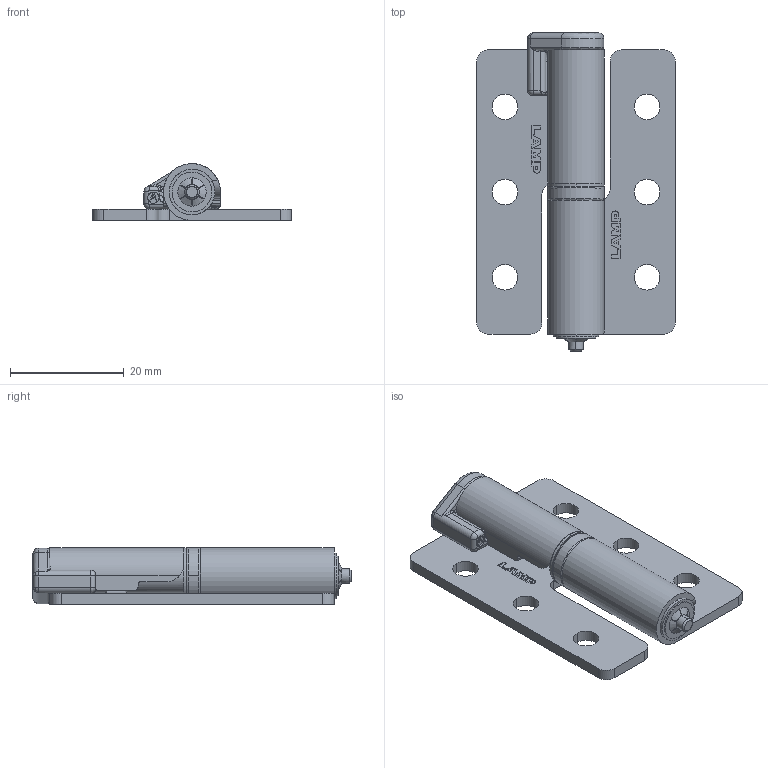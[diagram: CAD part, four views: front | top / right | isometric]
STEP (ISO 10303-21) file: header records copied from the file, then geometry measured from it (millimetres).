
FILE_DESCRIPTION (( 'STEP AP203' ), '1' );
FILE_NAME ('hg-knt3l_2.step', '2023-08-23T02:50:51', ( '' ), ( '' ), 'SwSTEP 2.0', 'SolidWorks 2022', '' );
FILE_SCHEMA (( 'CONFIG_CONTROL_DESIGN' ));
Length unit declared in the file: millimetre
Products named in the file (4): SC170-15985_HG-KNT3L_羽根; SC170-15987_HG-KNT3L_ホルダ_公開用; hg-knt3l_2; SC170-18089_HG-KNT3L_筐体側
Assembly tree (3 placements, depth 2):
  hg-knt3l_2
    SC170-18089_HG-KNT3L_筐体側
    SC170-15985_HG-KNT3L_羽根
    SC170-15987_HG-KNT3L_ホルダ_公開用
Bounding box: 35 x 56 x 10 mm (x, y, z)
Volume: 6453.4 mm3; surface area: 6569.3 mm2
Topology: 3 solids, 3 shells, 477 faces, 1317 edges, 852 vertices
Faces by surface type: plane 306, cylinder 94, bspline 50, cone 24, torus 3
Entity records: 18216 total; most frequent: CARTESIAN_POINT 6251, ORIENTED_EDGE 2616, DIRECTION 2076, EDGE_CURVE 1308, VERTEX_POINT 852, LINE 814, VECTOR 814, AXIS2_PLACEMENT_3D 631
